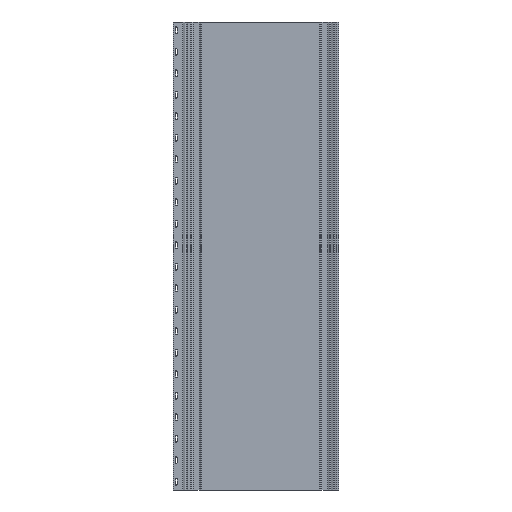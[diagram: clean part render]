
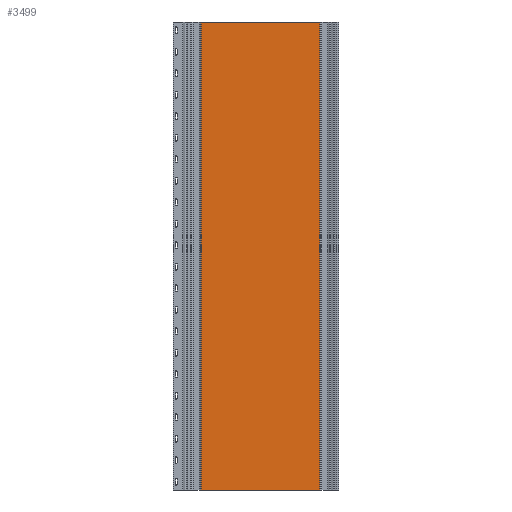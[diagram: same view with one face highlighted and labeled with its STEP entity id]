
A CAD part, front view. The second image highlights one B-rep face of the part: STEP entity #3499.
In plain terms, the highlighted planar face has unit normal (0, -1, 0).
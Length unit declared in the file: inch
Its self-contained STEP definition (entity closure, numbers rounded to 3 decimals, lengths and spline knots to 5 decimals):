
#119=PLANE('',#3809);
#267=FACE_OUTER_BOUND('',#441,.T.);
#441=EDGE_LOOP('',(#2737,#2738,#2739,#2740));
#779=LINE('',#5662,#1127);
#780=LINE('',#5665,#1128);
#781=LINE('',#5667,#1129);
#782=LINE('',#5668,#1130);
#1127=VECTOR('',#4625,0.3937);
#1128=VECTOR('',#4628,0.3937);
#1129=VECTOR('',#4629,0.3937);
#1130=VECTOR('',#4630,0.3937);
#1641=VERTEX_POINT('',#5658);
#1642=VERTEX_POINT('',#5660);
#1643=VERTEX_POINT('',#5664);
#1644=VERTEX_POINT('',#5666);
#2103=EDGE_CURVE('',#1641,#1642,#779,.T.);
#2104=EDGE_CURVE('',#1643,#1641,#780,.T.);
#2105=EDGE_CURVE('',#1644,#1642,#781,.T.);
#2106=EDGE_CURVE('',#1643,#1644,#782,.T.);
#2737=ORIENTED_EDGE('',*,*,#2104,.T.);
#2738=ORIENTED_EDGE('',*,*,#2103,.T.);
#2739=ORIENTED_EDGE('',*,*,#2105,.F.);
#2740=ORIENTED_EDGE('',*,*,#2106,.F.);
#3499=ADVANCED_FACE('',(#267),#119,.T.);
#3809=AXIS2_PLACEMENT_3D('',#5663,#4626,#4627);
#4625=DIRECTION('',(0.,0.,1.));
#4626=DIRECTION('center_axis',(0.,-1.,0.));
#4627=DIRECTION('ref_axis',(1.,0.,0.));
#4628=DIRECTION('',(1.,0.,0.));
#4629=DIRECTION('',(1.,0.,0.));
#4630=DIRECTION('',(0.,0.,1.));
#5658=CARTESIAN_POINT('',(15.87699,0.49452,0.));
#5660=CARTESIAN_POINT('',(15.87699,0.49452,49.));
#5662=CARTESIAN_POINT('',(15.87699,0.49452,0.));
#5663=CARTESIAN_POINT('Origin',(3.50399,0.49452,0.));
#5664=CARTESIAN_POINT('',(3.50399,0.49452,0.));
#5665=CARTESIAN_POINT('',(3.50399,0.49452,0.));
#5666=CARTESIAN_POINT('',(3.50399,0.49452,49.));
#5667=CARTESIAN_POINT('',(3.50399,0.49452,49.));
#5668=CARTESIAN_POINT('',(3.50399,0.49452,0.));
